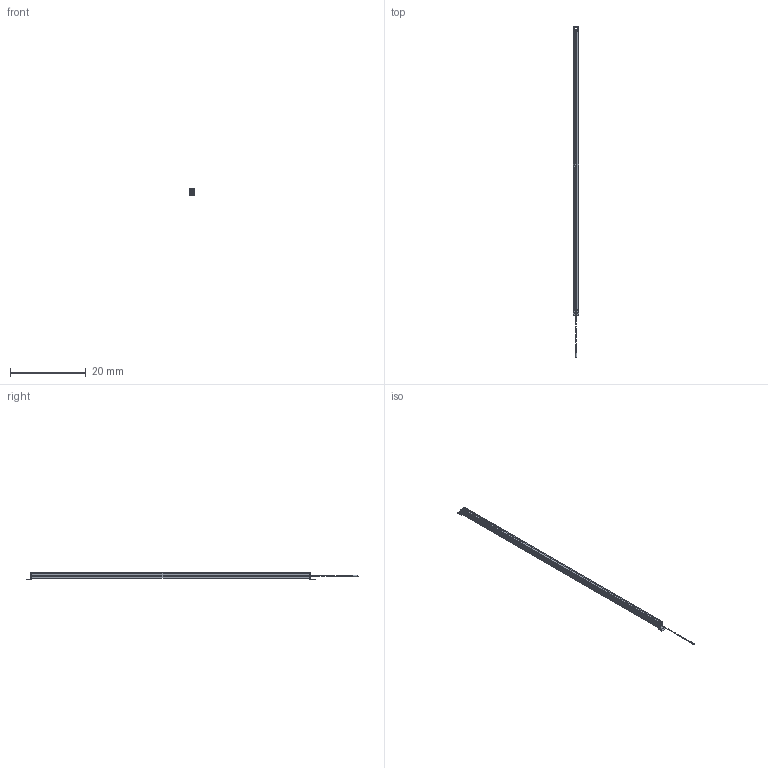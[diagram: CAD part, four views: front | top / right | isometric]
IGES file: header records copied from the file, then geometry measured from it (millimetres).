
Start section:  Autodesk DirectConnect version 7.0.27.0 ---- IGES version 5.3
Global section: file name: C:\ACADFILES\SS_PYLONS\CUSTOMER_FILES\SS-72-PYLON_3D_L.iges; native system: Autodesk DirectConnect 7.0.27.0; preprocessor: 7.0.27.0; author: ENGINEERMAIN; organization: Unknown; date: 20150810.130034; units: millimetre
Bounding box: 1.46 x 87.52 x 2.11 mm (x, y, z)
Surface area: 1081.7 mm2 (no closed solid volume)
Topology: 0 solids, 0 shells, 475 faces, 2604 edges, 2623 vertices
Faces by surface type: bspline 475
